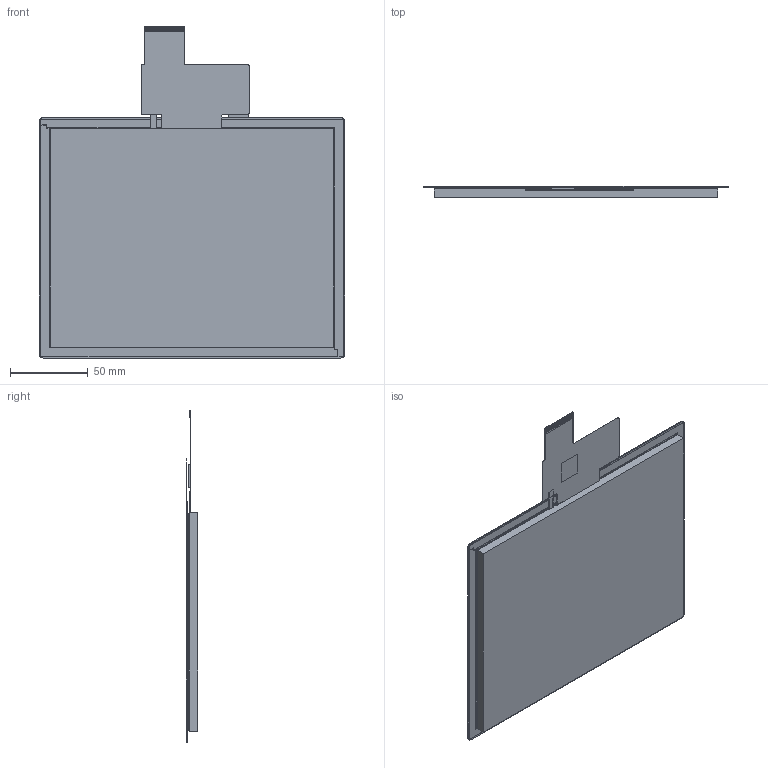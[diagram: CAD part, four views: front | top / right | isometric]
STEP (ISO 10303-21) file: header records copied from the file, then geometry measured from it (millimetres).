
FILE_DESCRIPTION (( 'STEP AP214' ), '1' );
FILE_NAME ('DMG80600F080_01WTC 3D.STEP', '2023-08-21T02:58:08', ( '' ), ( 'Microsoft' ), 'SwSTEP 2.0', 'SolidWorks 2017', '' );
FILE_SCHEMA (( 'AUTOMOTIVE_DESIGN' ));
Length unit declared in the file: millimetre
Products named in the file (3): TPC080F0001G01V2; DMG80600F080_01WN (LCM); DMG80600F080_01WTC 3D
Assembly tree (2 placements, depth 2):
  DMG80600F080_01WTC 3D
    DMG80600F080_01WN (LCM)
    TPC080F0001G01V2
Bounding box: 197 x 7.38 x 214.2 mm (x, y, z)
Volume: 186909.8 mm3; surface area: 125365.6 mm2
Topology: 3 solids, 3 shells, 387 faces, 965 edges, 644 vertices
Faces by surface type: plane 360, cylinder 27
Entity records: 15709 total; most frequent: CARTESIAN_POINT 2001, ORIENTED_EDGE 1930, DIRECTION 1803, EDGE_CURVE 965, VECTOR 911, LINE 911, VERTEX_POINT 644, EDGE_LOOP 449
